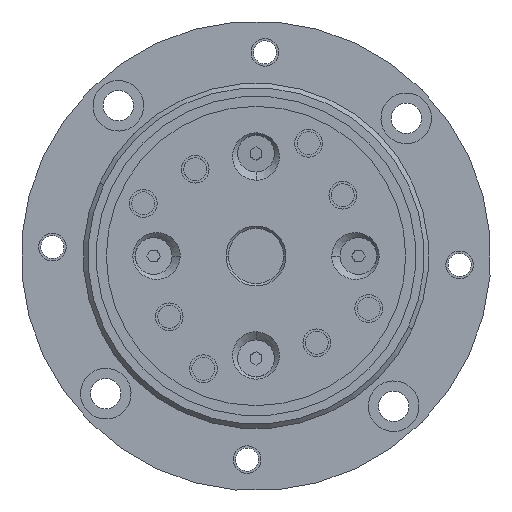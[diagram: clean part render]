
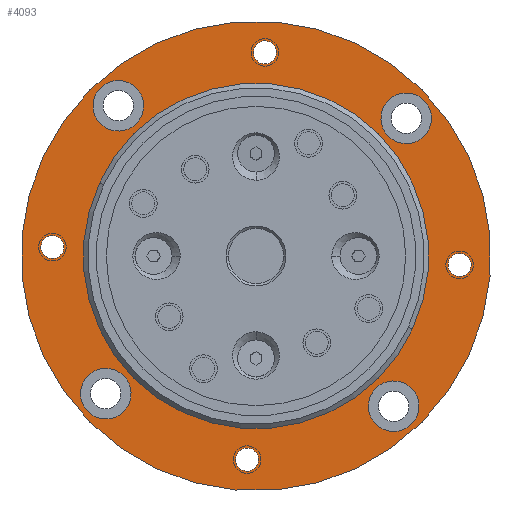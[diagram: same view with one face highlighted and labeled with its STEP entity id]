
A CAD part, front view. The second image highlights one B-rep face of the part: STEP entity #4093.
In plain terms, the highlighted planar face has unit normal (0, -1, 0).
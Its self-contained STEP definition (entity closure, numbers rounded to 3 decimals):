
#340=CARTESIAN_POINT('',(0.,6.,0.));
#341=DIRECTION('',(0.,1.,0.));
#342=DIRECTION('',(0.906,0.,-0.423));
#343=AXIS2_PLACEMENT_3D('',#340,#341,#342);
#345=CARTESIAN_POINT('',(0.,6.,0.));
#346=DIRECTION('',(0.,1.,0.));
#347=DIRECTION('',(-0.906,0.,0.423));
#348=AXIS2_PLACEMENT_3D('',#345,#346,#347);
#350=CARTESIAN_POINT('',(29.895,6.,-32.625));
#351=DIRECTION('',(0.,-1.,0.));
#352=DIRECTION('',(-0.676,0.,0.737));
#353=AXIS2_PLACEMENT_3D('',#350,#351,#352);
#355=CARTESIAN_POINT('',(29.895,6.,-32.625));
#356=DIRECTION('',(0.,-1.,0.));
#357=DIRECTION('',(0.676,0.,-0.737));
#358=AXIS2_PLACEMENT_3D('',#355,#356,#357);
#360=CARTESIAN_POINT('',(-32.625,6.,-29.895));
#361=DIRECTION('',(0.,-1.,0.));
#362=DIRECTION('',(0.737,0.,0.676));
#363=AXIS2_PLACEMENT_3D('',#360,#361,#362);
#365=CARTESIAN_POINT('',(-32.625,6.,-29.895));
#366=DIRECTION('',(0.,-1.,0.));
#367=DIRECTION('',(-0.737,0.,-0.676));
#368=AXIS2_PLACEMENT_3D('',#365,#366,#367);
#370=CARTESIAN_POINT('',(-29.895,6.,32.625));
#371=DIRECTION('',(0.,-1.,0.));
#372=DIRECTION('',(0.676,0.,-0.737));
#373=AXIS2_PLACEMENT_3D('',#370,#371,#372);
#375=CARTESIAN_POINT('',(-29.895,6.,32.625));
#376=DIRECTION('',(0.,-1.,0.));
#377=DIRECTION('',(-0.676,0.,0.737));
#378=AXIS2_PLACEMENT_3D('',#375,#376,#377);
#380=CARTESIAN_POINT('',(32.625,6.,29.895));
#381=DIRECTION('',(0.,-1.,0.));
#382=DIRECTION('',(-0.737,0.,-0.676));
#383=AXIS2_PLACEMENT_3D('',#380,#381,#382);
#385=CARTESIAN_POINT('',(32.625,6.,29.895));
#386=DIRECTION('',(0.,-1.,0.));
#387=DIRECTION('',(0.737,0.,0.676));
#388=AXIS2_PLACEMENT_3D('',#385,#386,#387);
#390=CARTESIAN_POINT('',(-1.93,6.,-44.208));
#391=DIRECTION('',(0.,-1.,0.));
#392=DIRECTION('',(0.044,0.,0.999));
#393=AXIS2_PLACEMENT_3D('',#390,#391,#392);
#395=CARTESIAN_POINT('',(-1.93,6.,-44.208));
#396=DIRECTION('',(0.,-1.,0.));
#397=DIRECTION('',(-0.044,0.,-0.999));
#398=AXIS2_PLACEMENT_3D('',#395,#396,#397);
#400=CARTESIAN_POINT('',(-44.208,6.,1.93));
#401=DIRECTION('',(0.,-1.,0.));
#402=DIRECTION('',(0.999,0.,-0.044));
#403=AXIS2_PLACEMENT_3D('',#400,#401,#402);
#405=CARTESIAN_POINT('',(-44.208,6.,1.93));
#406=DIRECTION('',(0.,-1.,0.));
#407=DIRECTION('',(-0.999,0.,0.044));
#408=AXIS2_PLACEMENT_3D('',#405,#406,#407);
#410=CARTESIAN_POINT('',(1.93,6.,44.208));
#411=DIRECTION('',(0.,-1.,0.));
#412=DIRECTION('',(-0.044,0.,-0.999));
#413=AXIS2_PLACEMENT_3D('',#410,#411,#412);
#415=CARTESIAN_POINT('',(1.93,6.,44.208));
#416=DIRECTION('',(0.,-1.,0.));
#417=DIRECTION('',(0.044,0.,0.999));
#418=AXIS2_PLACEMENT_3D('',#415,#416,#417);
#420=CARTESIAN_POINT('',(44.208,6.,-1.93));
#421=DIRECTION('',(0.,-1.,0.));
#422=DIRECTION('',(-0.999,0.,0.044));
#423=AXIS2_PLACEMENT_3D('',#420,#421,#422);
#425=CARTESIAN_POINT('',(44.208,6.,-1.93));
#426=DIRECTION('',(0.,-1.,0.));
#427=DIRECTION('',(0.999,0.,-0.044));
#428=AXIS2_PLACEMENT_3D('',#425,#426,#427);
#614=CARTESIAN_POINT('',(0.,6.,0.));
#615=DIRECTION('',(0.,1.,0.));
#616=DIRECTION('',(-0.906,0.,0.423));
#617=AXIS2_PLACEMENT_3D('',#614,#615,#616);
#619=CARTESIAN_POINT('',(0.,6.,0.));
#620=DIRECTION('',(0.,1.,0.));
#621=DIRECTION('',(0.906,0.,-0.423));
#622=AXIS2_PLACEMENT_3D('',#619,#620,#621);
#3217=CARTESIAN_POINT('',(46.222,6.,-21.554));
#3218=CARTESIAN_POINT('',(-46.222,6.,21.554));
#3219=VERTEX_POINT('',#3217);
#3220=VERTEX_POINT('',#3218);
#3221=CARTESIAN_POINT('',(26.179,6.,-28.569));
#3222=CARTESIAN_POINT('',(33.611,6.,-36.68));
#3223=VERTEX_POINT('',#3221);
#3224=VERTEX_POINT('',#3222);
#3225=CARTESIAN_POINT('',(-28.569,6.,-26.179));
#3226=CARTESIAN_POINT('',(-36.68,6.,-33.611));
#3227=VERTEX_POINT('',#3225);
#3228=VERTEX_POINT('',#3226);
#3229=CARTESIAN_POINT('',(-26.179,6.,28.569));
#3230=CARTESIAN_POINT('',(-33.611,6.,36.68));
#3231=VERTEX_POINT('',#3229);
#3232=VERTEX_POINT('',#3230);
#3233=CARTESIAN_POINT('',(28.569,6.,26.179));
#3234=CARTESIAN_POINT('',(36.68,6.,33.611));
#3235=VERTEX_POINT('',#3233);
#3236=VERTEX_POINT('',#3234);
#3237=CARTESIAN_POINT('',(-1.821,6.,-41.71));
#3238=CARTESIAN_POINT('',(-2.039,6.,-46.706));
#3239=VERTEX_POINT('',#3237);
#3240=VERTEX_POINT('',#3238);
#3241=CARTESIAN_POINT('',(-41.71,6.,1.821));
#3242=CARTESIAN_POINT('',(-46.706,6.,2.039));
#3243=VERTEX_POINT('',#3241);
#3244=VERTEX_POINT('',#3242);
#3245=CARTESIAN_POINT('',(1.821,6.,41.71));
#3246=CARTESIAN_POINT('',(2.039,6.,46.706));
#3247=VERTEX_POINT('',#3245);
#3248=VERTEX_POINT('',#3246);
#3249=CARTESIAN_POINT('',(41.71,6.,-1.821));
#3250=CARTESIAN_POINT('',(46.706,6.,-2.039));
#3251=VERTEX_POINT('',#3249);
#3252=VERTEX_POINT('',#3250);
#3729=CARTESIAN_POINT('',(-33.987,6.,15.848));
#3730=CARTESIAN_POINT('',(33.987,6.,-15.848));
#3731=VERTEX_POINT('',#3729);
#3732=VERTEX_POINT('',#3730);
#4029=CARTESIAN_POINT('',(0.,6.,0.));
#4030=DIRECTION('',(0.,1.,0.));
#4031=DIRECTION('',(0.906,0.,-0.423));
#4032=AXIS2_PLACEMENT_3D('',#4029,#4030,#4031);
#4033=PLANE('',#4032);
#4034=ORIENTED_EDGE('',*,*,#4019,.T.);
#4036=ORIENTED_EDGE('',*,*,#4035,.T.);
#4037=EDGE_LOOP('',(#4034,#4036));
#4038=FACE_OUTER_BOUND('',#4037,.F.);
#4040=ORIENTED_EDGE('',*,*,#4039,.T.);
#4042=ORIENTED_EDGE('',*,*,#4041,.T.);
#4043=EDGE_LOOP('',(#4040,#4042));
#4044=FACE_BOUND('',#4043,.F.);
#4046=ORIENTED_EDGE('',*,*,#4045,.T.);
#4048=ORIENTED_EDGE('',*,*,#4047,.T.);
#4049=EDGE_LOOP('',(#4046,#4048));
#4050=FACE_BOUND('',#4049,.F.);
#4052=ORIENTED_EDGE('',*,*,#4051,.T.);
#4054=ORIENTED_EDGE('',*,*,#4053,.T.);
#4055=EDGE_LOOP('',(#4052,#4054));
#4056=FACE_BOUND('',#4055,.F.);
#4058=ORIENTED_EDGE('',*,*,#4057,.T.);
#4060=ORIENTED_EDGE('',*,*,#4059,.T.);
#4061=EDGE_LOOP('',(#4058,#4060));
#4062=FACE_BOUND('',#4061,.F.);
#4064=ORIENTED_EDGE('',*,*,#4063,.T.);
#4066=ORIENTED_EDGE('',*,*,#4065,.T.);
#4067=EDGE_LOOP('',(#4064,#4066));
#4068=FACE_BOUND('',#4067,.F.);
#4070=ORIENTED_EDGE('',*,*,#4069,.T.);
#4072=ORIENTED_EDGE('',*,*,#4071,.T.);
#4073=EDGE_LOOP('',(#4070,#4072));
#4074=FACE_BOUND('',#4073,.F.);
#4076=ORIENTED_EDGE('',*,*,#4075,.T.);
#4078=ORIENTED_EDGE('',*,*,#4077,.T.);
#4079=EDGE_LOOP('',(#4076,#4078));
#4080=FACE_BOUND('',#4079,.F.);
#4082=ORIENTED_EDGE('',*,*,#4081,.T.);
#4084=ORIENTED_EDGE('',*,*,#4083,.T.);
#4085=EDGE_LOOP('',(#4082,#4084));
#4086=FACE_BOUND('',#4085,.F.);
#4088=ORIENTED_EDGE('',*,*,#4087,.F.);
#4090=ORIENTED_EDGE('',*,*,#4089,.F.);
#4091=EDGE_LOOP('',(#4088,#4090));
#4092=FACE_BOUND('',#4091,.F.);
#344=CIRCLE('',#343,51.);
#349=CIRCLE('',#348,51.);
#354=CIRCLE('',#353,5.5);
#359=CIRCLE('',#358,5.5);
#364=CIRCLE('',#363,5.5);
#369=CIRCLE('',#368,5.5);
#374=CIRCLE('',#373,5.5);
#379=CIRCLE('',#378,5.5);
#384=CIRCLE('',#383,5.5);
#389=CIRCLE('',#388,5.5);
#394=CIRCLE('',#393,2.5);
#399=CIRCLE('',#398,2.5);
#404=CIRCLE('',#403,2.5);
#409=CIRCLE('',#408,2.5);
#414=CIRCLE('',#413,2.5);
#419=CIRCLE('',#418,2.5);
#424=CIRCLE('',#423,2.5);
#429=CIRCLE('',#428,2.5);
#618=CIRCLE('',#617,37.5);
#623=CIRCLE('',#622,37.5);
#4019=EDGE_CURVE('',#3219,#3220,#344,.T.);
#4035=EDGE_CURVE('',#3220,#3219,#349,.T.);
#4039=EDGE_CURVE('',#3223,#3224,#354,.T.);
#4041=EDGE_CURVE('',#3224,#3223,#359,.T.);
#4045=EDGE_CURVE('',#3227,#3228,#364,.T.);
#4047=EDGE_CURVE('',#3228,#3227,#369,.T.);
#4051=EDGE_CURVE('',#3231,#3232,#374,.T.);
#4053=EDGE_CURVE('',#3232,#3231,#379,.T.);
#4057=EDGE_CURVE('',#3235,#3236,#384,.T.);
#4059=EDGE_CURVE('',#3236,#3235,#389,.T.);
#4063=EDGE_CURVE('',#3239,#3240,#394,.T.);
#4065=EDGE_CURVE('',#3240,#3239,#399,.T.);
#4069=EDGE_CURVE('',#3243,#3244,#404,.T.);
#4071=EDGE_CURVE('',#3244,#3243,#409,.T.);
#4075=EDGE_CURVE('',#3247,#3248,#414,.T.);
#4077=EDGE_CURVE('',#3248,#3247,#419,.T.);
#4081=EDGE_CURVE('',#3251,#3252,#424,.T.);
#4083=EDGE_CURVE('',#3252,#3251,#429,.T.);
#4087=EDGE_CURVE('',#3731,#3732,#618,.T.);
#4089=EDGE_CURVE('',#3732,#3731,#623,.T.);
#4093=ADVANCED_FACE('',(#4038,#4044,#4050,#4056,#4062,#4068,#4074,#4080,#4086,
#4092),#4033,.F.);
